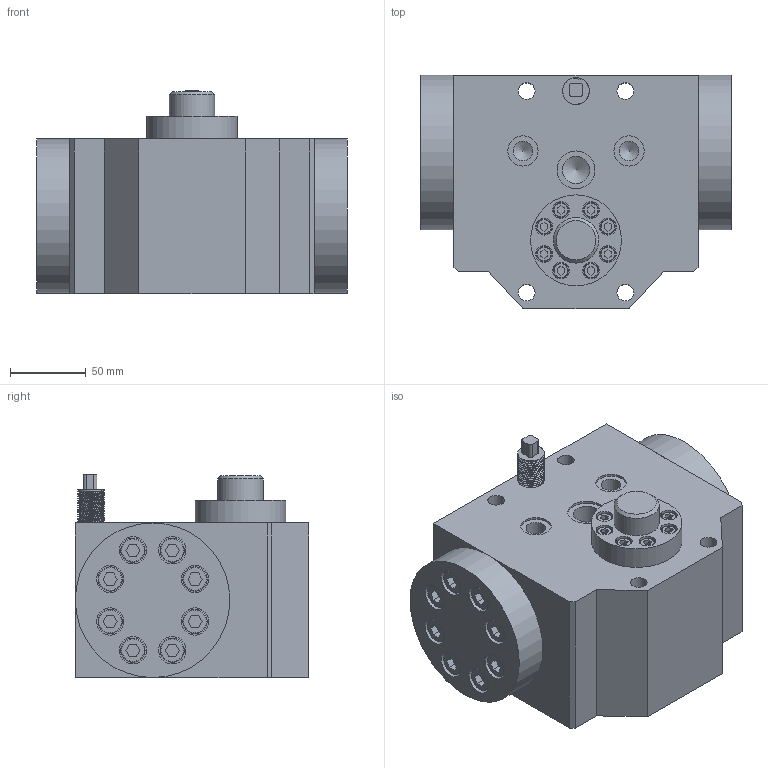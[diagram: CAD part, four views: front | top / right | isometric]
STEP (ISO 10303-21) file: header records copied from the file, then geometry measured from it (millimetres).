
FILE_DESCRIPTION(/* description */ (''),/* implementation_level */ '2;1');
FILE_NAME(/* name */ '11-3.prt.stp',/* time_stamp */ '2023-05-05T13:52:43+08:00',/* author */ (''),/* organization */ (''),/* preprocessor_version */ 'ST-DEVELOPER v16.7',/* originating_system */ 'SIEMENS PLM Software NX 12.0',/* authorisation */ '');
FILE_SCHEMA (('AUTOMOTIVE_DESIGN { 1 0 10303 214 3 1 1 1 }'));
Length unit declared in the file: millimetre
Products named in the file (1): 11-3
Bounding box: 205 x 154 x 134 mm (x, y, z)
Volume: 2697657.5 mm3; surface area: 268982.9 mm2
Topology: 31 solids, 31 shells, 659 faces, 1615 edges, 1069 vertices
Faces by surface type: plane 392, cylinder 189, cone 52, torus 24, bspline 2
Full cylindrical faces by diameter (mm): 5 x8, 6 x8, 7 x8, 8.5 x16, 10 x24, 11 x28, 13 x2, 16 x16, 18 x17, 20 x2, 25 x1, 30 x2, 60 x1, 102 x2
Entity records: 20635 total; most frequent: CARTESIAN_POINT 5953, DIRECTION 3033, ORIENTED_EDGE 2504, EDGE_CURVE 1252, AXIS2_PLACEMENT_3D 1132, EDGE_LOOP 1051, VERTEX_POINT 968, LINE 769
